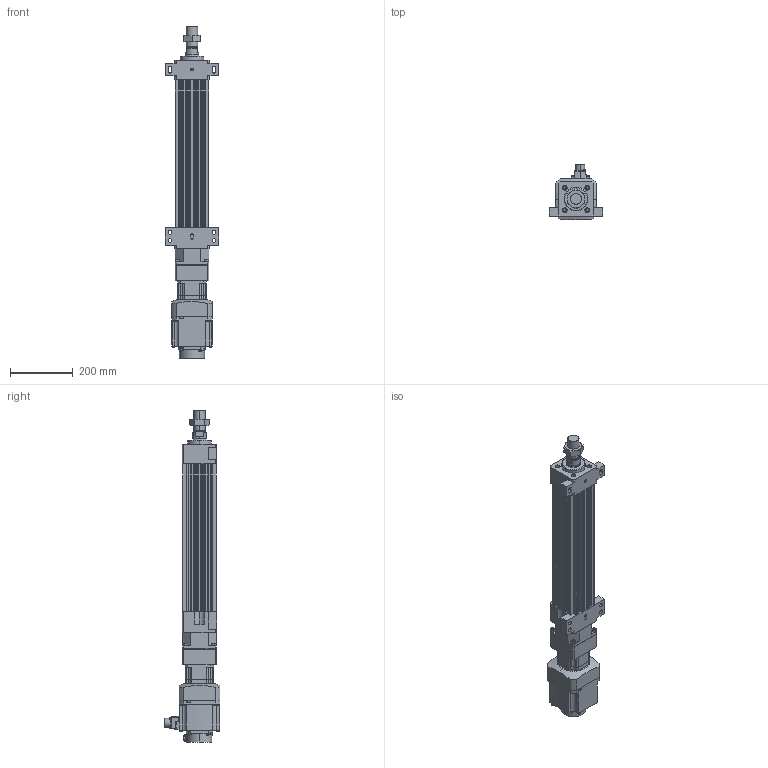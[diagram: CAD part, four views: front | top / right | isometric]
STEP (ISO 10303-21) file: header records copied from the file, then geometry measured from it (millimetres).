
FILE_DESCRIPTION (( 'STEP AP203' ), '1' );
FILE_NAME ('HES110NS(HS)-S300-W010G00-M-FFB.STEP', '2023-01-27T05:34:13', ( 'tms' ), ( '' ), 'SwSTEP 2.0', 'SolidWorks 2013', '' );
FILE_SCHEMA (( 'CONFIG_CONTROL_DESIGN' ));
Length unit declared in the file: millimetre
Products named in the file (8): HES110 ROD M ST300; HES110-S300-G090-FFB; HES110NS(HS)-S300-W010G00-M-FFB; M36X1.5P; HG-SR102; AB0901; AB090-003[HG-SR102B]; P0401301004
Assembly tree (7 placements, depth 3):
  HES110NS(HS)-S300-W010G00-M-FFB
    HES110-S300-G090-FFB
    HES110 ROD M ST300
    M36X1.5P
    AB090-003[HG-SR102B]
      AB0901
      P0401301004
    HG-SR102
Bounding box: 170 x 177.49 x 1058.5 mm (x, y, z)
Volume: 6941526.5 mm3; surface area: 924589.1 mm2
Topology: 4 solids, 15 shells, 1189 faces, 3015 edges, 1964 vertices
Faces by surface type: plane 570, cylinder 529, cone 78, bspline 8, torus 4
Entity records: 37852 total; most frequent: CARTESIAN_POINT 7358, DIRECTION 6498, ORIENTED_EDGE 5982, EDGE_CURVE 3001, AXIS2_PLACEMENT_3D 2375, VERTEX_POINT 1964, LINE 1748, VECTOR 1748
